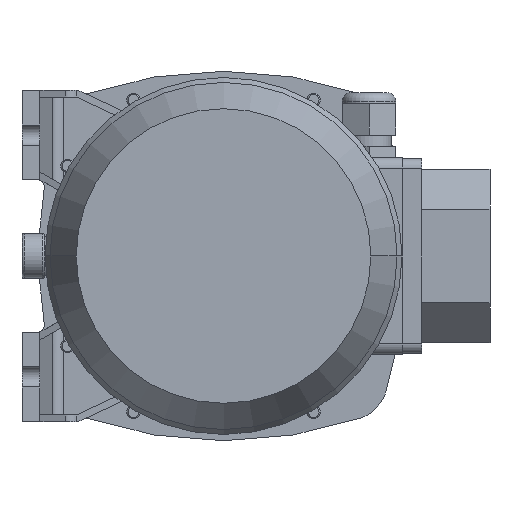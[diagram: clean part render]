
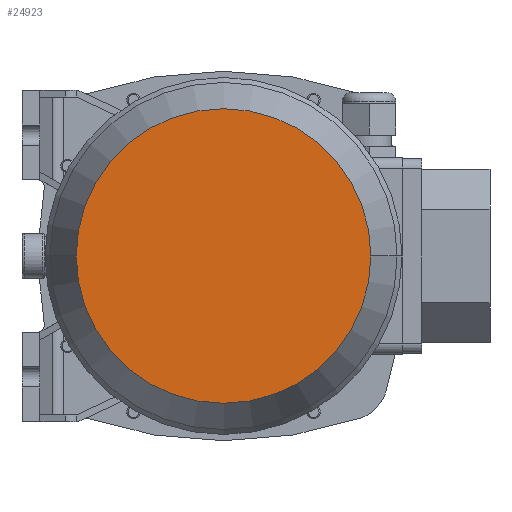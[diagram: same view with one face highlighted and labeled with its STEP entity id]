
A CAD part, front view. The second image highlights one B-rep face of the part: STEP entity #24923.
In plain terms, the highlighted planar face has unit normal (0, -1, 0) as drawn and (1, 0, 0) by its records, which use the part's own axes.
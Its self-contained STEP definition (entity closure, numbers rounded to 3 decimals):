
#18235=CARTESIAN_POINT('',(228.,0.,0.));
#18236=DIRECTION('',(-1.,0.,0.));
#18237=DIRECTION('',(0.,1.,0.));
#18238=AXIS2_PLACEMENT_3D('',#18235,#18236,#18237);
#18243=CARTESIAN_POINT('',(228.,0.,0.));
#18244=DIRECTION('',(1.,0.,0.));
#18245=DIRECTION('',(0.,1.,0.));
#18246=AXIS2_PLACEMENT_3D('',#18243,#18244,#18245);
#20216=CARTESIAN_POINT('',(228.,65.794,0.));
#20218=VERTEX_POINT('',#20216);
#20226=CARTESIAN_POINT('',(228.,-65.794,0.));
#20228=VERTEX_POINT('',#20226);
#24914=CARTESIAN_POINT('',(228.,0.,0.));
#24915=DIRECTION('',(1.,0.,0.));
#24916=DIRECTION('',(0.,-1.,0.));
#24917=AXIS2_PLACEMENT_3D('',#24914,#24915,#24916);
#24918=PLANE('',#24917);
#24919=ORIENTED_EDGE('',*,*,#24896,.T.);
#24920=ORIENTED_EDGE('',*,*,#24907,.F.);
#24921=EDGE_LOOP('',(#24919,#24920));
#24922=FACE_OUTER_BOUND('',#24921,.F.);
#18239=CIRCLE('',#18238,65.794);
#18247=CIRCLE('',#18246,65.794);
#24896=EDGE_CURVE('',#20218,#20228,#18239,.T.);
#24907=EDGE_CURVE('',#20218,#20228,#18247,.T.);
#24923=ADVANCED_FACE('',(#24922),#24918,.T.);
